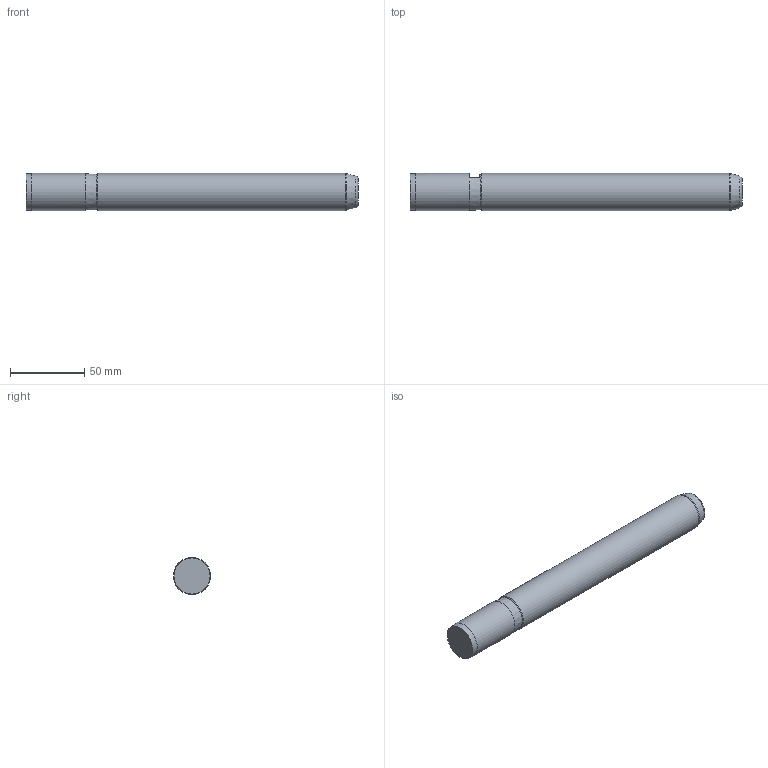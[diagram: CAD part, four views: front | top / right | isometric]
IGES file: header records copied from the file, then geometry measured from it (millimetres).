
Global section: file name: VW25224.ipt; native system: Autodesk Inventor 2021; preprocessor: unknown; author: SM; date: 20220118.101233; units: millimetre
Bounding box: 224 x 25 x 25 mm (x, y, z)
Volume: 108863.4 mm3; surface area: 18386.6 mm2
Topology: 1 solids, 1 shells, 13 faces, 29 edges, 18 vertices
Faces by surface type: plane 5, cone 4, cylinder 2, revolution 2
Full cylindrical faces by diameter (mm): 25 x2
